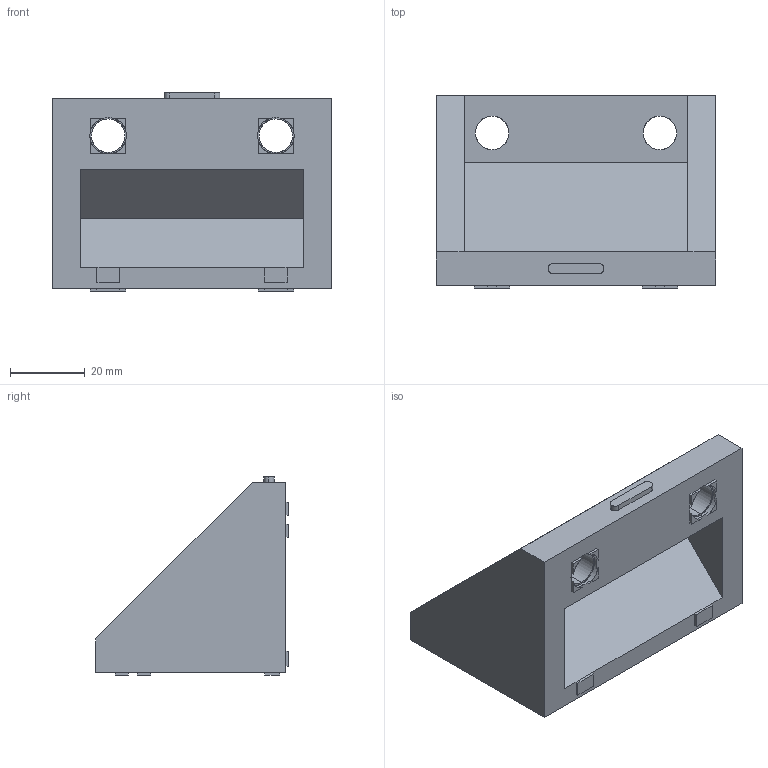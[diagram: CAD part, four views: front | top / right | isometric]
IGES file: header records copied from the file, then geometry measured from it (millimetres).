
Start section: SolidWorks IGES file using analytic representation for surfaces
Global section: file name: C:\Documents and Settings\Administrator\デスクトップ\指定保存後4回目\SolidWorks\SF\SF40・45\Bracket\Dブラケット4080_4590\SFJ-023.IGS,41HSolidWorks 2006; native system: by SolidWorks Corporation; preprocessor: SolidWorks 2006 by SolidWorks Corporation; author: Administrator; date: 061215.161513; units: millimetre
Bounding box: 75 x 51.7 x 53.2 mm (x, y, z)
Surface area: 21477.7 mm2 (no closed solid volume)
Topology: 0 solids, 0 shells, 116 faces, 1154 edges, 1154 vertices
Faces by surface type: bspline 96, revolution 20
